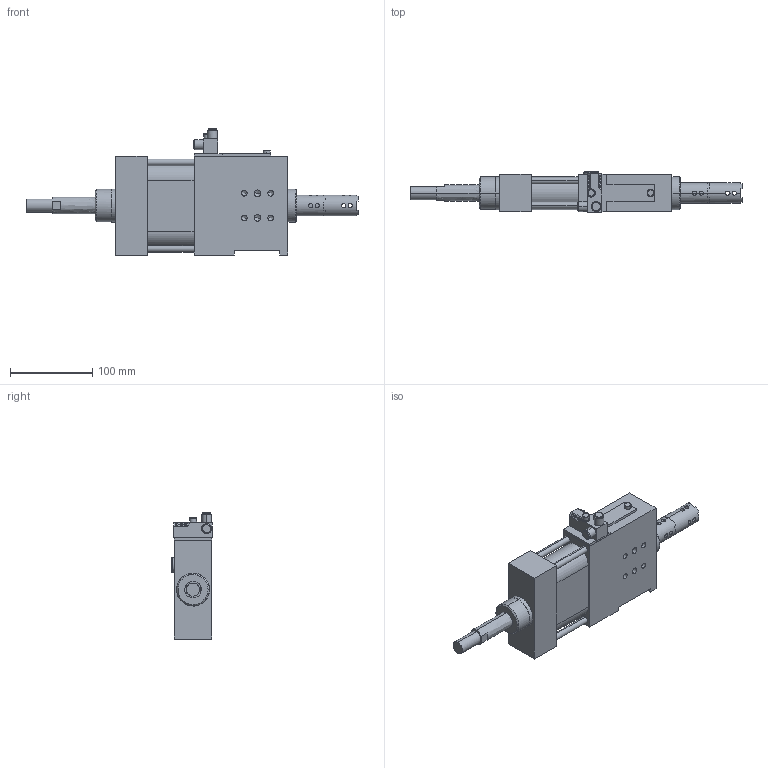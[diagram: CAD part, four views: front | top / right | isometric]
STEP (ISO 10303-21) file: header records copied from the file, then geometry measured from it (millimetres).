
FILE_DESCRIPTION(('CATIA V5 STEP Exchange'),'2;1');
FILE_NAME('G:\Konstruktion\Modelle\UPLOAD\SZK_63_BR3_Z_T12_TUENKERS.stp','2016-10-17T10:29:41+00:00',('none'),('none'),'CATIA Version 5 Release 19 SP 9 (IN-10)','CATIA V5 STEP AP214','none');
FILE_SCHEMA(('AUTOMOTIVE_DESIGN { 1 0 10303 214 1 1 1 1 }'));
Length unit declared in the file: millimetre
Products named in the file (1): SZK_63_BR3_Z_T12_TUENKERS
Bounding box: 403 x 49.5 x 153 mm (x, y, z)
Volume: 1182979.6 mm3; surface area: 145114.5 mm2
Topology: 10 solids, 22 shells, 348 faces, 1116 edges, 766 vertices
Faces by surface type: bspline 249, cylinder 48, plane 47, cone 4
Entity records: 17401 total; most frequent: CARTESIAN_POINT 8897, ORIENTED_EDGE 1948, EDGE_CURVE 1049, VERTEX_POINT 765, B_SPLINE_CURVE_WITH_KNOTS 762, EDGE_LOOP 418, ADVANCED_FACE 348, FACE_OUTER_BOUND 348
